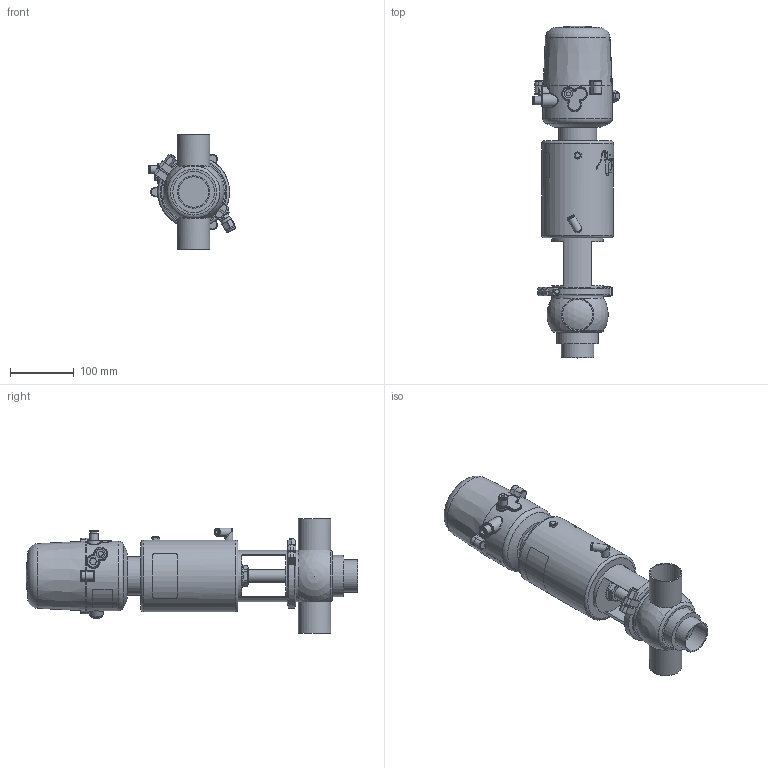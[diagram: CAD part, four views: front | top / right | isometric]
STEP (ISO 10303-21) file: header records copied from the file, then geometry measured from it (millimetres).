
FILE_DESCRIPTION (( 'STEP AP214' ), '1' );
FILE_NAME ('INNOVA N T W OD 2 T2 AS NC & C-TOP S_10.240.16.0058.STEP', '2024-08-06T08:17:18', ( '' ), ( '' ), 'SwSTEP 2.0', 'SolidWorks 2023', '' );
FILE_SCHEMA (( 'AUTOMOTIVE_DESIGN' ));
Length unit declared in the file: millimetre
Products named in the file (7): 10.240.15.0017_Estàndard; 10.426.15.0001_C-TOP S - 1 EV; 10.240.15.0010_DN 050; 10.240.15.0014_T2 AS P0; 10.240.15.0003_OD 2"; 10.240.15.0001_DN 050; INNOVA N T W OD 2 T2 AS NC & C-TOP S_10.240.16.0058
Assembly tree (6 placements, depth 2):
  INNOVA N T W OD 2 T2 AS NC & C-TOP S_10.240.16.0058
    10.240.15.0003_OD 2"
    10.240.15.0010_DN 050
    10.240.15.0014_T2 AS P0
    10.240.15.0017_Estàndard
    10.426.15.0001_C-TOP S - 1 EV
    10.240.15.0001_DN 050
Bounding box: 136.88 x 520.25 x 180 mm (x, y, z)
Volume: 3617167.9 mm3; surface area: 297500.6 mm2
Topology: 6 solids, 6 shells, 1103 faces, 2649 edges, 1767 vertices
Faces by surface type: plane 376, cylinder 332, cone 191, bspline 160, torus 37, sphere 7
Full cylindrical faces by diameter (mm): 0.371 x17, 0.512 x16, 0.658 x16, 0.795 x16, 0.94 x15, 1.098 x15, 1.241 x13, 1.382 x13, 1.523 x11, 1.669 x10, 2.201 x1, 4 x2, 5.5 x2, 6 x2, 6.15 x1, 8 x4, 8.5 x1, 10 x1, 10.5 x1, 11 x2, 12.5 x3, 13 x2, 13.5 x2, 16 x1, 17 x3, 20 x3, 20.5 x1, 22 x2, 31 x1, 34.5 x3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
Entity records: 57853 total; most frequent: CARTESIAN_POINT 27830, ORIENTED_EDGE 4498, DIRECTION 3611, EDGE_CURVE 2249, VERTEX_POINT 1598, EDGE_LOOP 1553, AXIS2_PLACEMENT_3D 1477, FACE_OUTER_BOUND 1317
